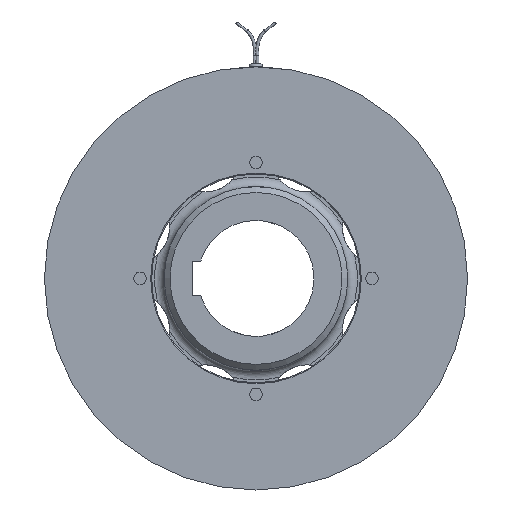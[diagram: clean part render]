
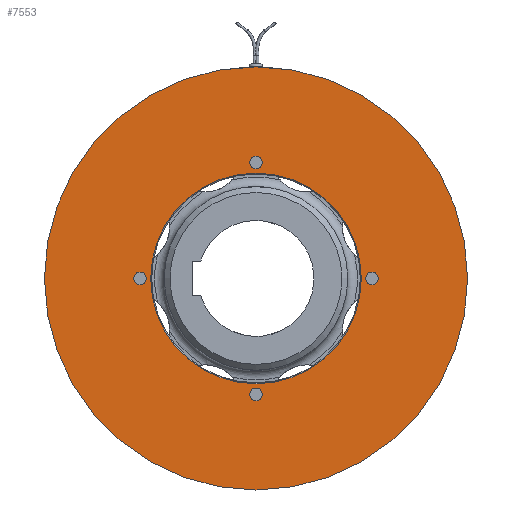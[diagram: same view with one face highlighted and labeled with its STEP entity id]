
A CAD part, left-side view. The second image highlights one B-rep face of the part: STEP entity #7553.
In plain terms, the highlighted planar face has unit normal (-1, 0, 0).
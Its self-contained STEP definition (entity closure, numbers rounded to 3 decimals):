
#149=FACE_BOUND('',#998,.T.);
#150=FACE_BOUND('',#999,.T.);
#151=FACE_BOUND('',#1000,.T.);
#152=FACE_BOUND('',#1001,.T.);
#153=FACE_BOUND('',#1002,.T.);
#271=PLANE('',#8570);
#571=FACE_OUTER_BOUND('',#997,.T.);
#997=EDGE_LOOP('',(#6177,#6178));
#998=EDGE_LOOP('',(#6179,#6180));
#999=EDGE_LOOP('',(#6181,#6182));
#1000=EDGE_LOOP('',(#6183,#6184));
#1001=EDGE_LOOP('',(#6185,#6186));
#1002=EDGE_LOOP('',(#6187));
#1188=CIRCLE('',#7703,109.5);
#1189=CIRCLE('',#7704,109.5);
#1799=CIRCLE('',#8571,3.25);
#1800=CIRCLE('',#8572,3.25);
#1801=CIRCLE('',#8573,3.25);
#1802=CIRCLE('',#8574,3.25);
#1803=CIRCLE('',#8575,3.25);
#1804=CIRCLE('',#8576,3.25);
#1805=CIRCLE('',#8577,3.25);
#1806=CIRCLE('',#8578,3.25);
#1807=CIRCLE('',#8579,54.5);
#2578=VERTEX_POINT('',#11792);
#2579=VERTEX_POINT('',#11793);
#3149=VERTEX_POINT('',#13990);
#3150=VERTEX_POINT('',#13991);
#3151=VERTEX_POINT('',#13994);
#3152=VERTEX_POINT('',#13995);
#3153=VERTEX_POINT('',#13998);
#3154=VERTEX_POINT('',#13999);
#3155=VERTEX_POINT('',#14002);
#3156=VERTEX_POINT('',#14003);
#3157=VERTEX_POINT('',#14006);
#3352=EDGE_CURVE('',#2578,#2579,#1188,.T.);
#3353=EDGE_CURVE('',#2579,#2578,#1189,.T.);
#4223=EDGE_CURVE('',#3149,#3150,#1799,.T.);
#4224=EDGE_CURVE('',#3150,#3149,#1800,.T.);
#4225=EDGE_CURVE('',#3151,#3152,#1801,.T.);
#4226=EDGE_CURVE('',#3152,#3151,#1802,.T.);
#4227=EDGE_CURVE('',#3153,#3154,#1803,.T.);
#4228=EDGE_CURVE('',#3154,#3153,#1804,.T.);
#4229=EDGE_CURVE('',#3155,#3156,#1805,.T.);
#4230=EDGE_CURVE('',#3156,#3155,#1806,.T.);
#4231=EDGE_CURVE('',#3157,#3157,#1807,.T.);
#6177=ORIENTED_EDGE('',*,*,#3352,.T.);
#6178=ORIENTED_EDGE('',*,*,#3353,.T.);
#6179=ORIENTED_EDGE('',*,*,#4223,.T.);
#6180=ORIENTED_EDGE('',*,*,#4224,.T.);
#6181=ORIENTED_EDGE('',*,*,#4225,.T.);
#6182=ORIENTED_EDGE('',*,*,#4226,.T.);
#6183=ORIENTED_EDGE('',*,*,#4227,.T.);
#6184=ORIENTED_EDGE('',*,*,#4228,.T.);
#6185=ORIENTED_EDGE('',*,*,#4229,.T.);
#6186=ORIENTED_EDGE('',*,*,#4230,.T.);
#6187=ORIENTED_EDGE('',*,*,#4231,.F.);
#7553=ADVANCED_FACE('',(#571,#149,#150,#151,#152,#153),#271,.T.);
#7703=AXIS2_PLACEMENT_3D('',#11794,#8899,#8900);
#7704=AXIS2_PLACEMENT_3D('',#11795,#8901,#8902);
#8570=AXIS2_PLACEMENT_3D('',#13989,#10841,#10842);
#8571=AXIS2_PLACEMENT_3D('',#13992,#10843,#10844);
#8572=AXIS2_PLACEMENT_3D('',#13993,#10845,#10846);
#8573=AXIS2_PLACEMENT_3D('',#13996,#10847,#10848);
#8574=AXIS2_PLACEMENT_3D('',#13997,#10849,#10850);
#8575=AXIS2_PLACEMENT_3D('',#14000,#10851,#10852);
#8576=AXIS2_PLACEMENT_3D('',#14001,#10853,#10854);
#8577=AXIS2_PLACEMENT_3D('',#14004,#10855,#10856);
#8578=AXIS2_PLACEMENT_3D('',#14005,#10857,#10858);
#8579=AXIS2_PLACEMENT_3D('',#14007,#10859,#10860);
#8899=DIRECTION('center_axis',(-1.,0.,0.));
#8900=DIRECTION('ref_axis',(0.,1.,0.));
#8901=DIRECTION('center_axis',(-1.,0.,0.));
#8902=DIRECTION('ref_axis',(0.,1.,0.));
#10841=DIRECTION('center_axis',(-1.,0.,0.));
#10842=DIRECTION('ref_axis',(0.,0.,
1.));
#10843=DIRECTION('center_axis',(1.,0.,0.));
#10844=DIRECTION('ref_axis',(0.,0.,
1.));
#10845=DIRECTION('center_axis',(1.,0.,0.));
#10846=DIRECTION('ref_axis',(0.,0.,
1.));
#10847=DIRECTION('center_axis',(1.,0.,0.));
#10848=DIRECTION('ref_axis',(0.,0.,
1.));
#10849=DIRECTION('center_axis',(1.,0.,0.));
#10850=DIRECTION('ref_axis',(0.,0.,
1.));
#10851=DIRECTION('center_axis',(1.,0.,0.));
#10852=DIRECTION('ref_axis',(0.,0.,
1.));
#10853=DIRECTION('center_axis',(1.,0.,0.));
#10854=DIRECTION('ref_axis',(0.,0.,
1.));
#10855=DIRECTION('center_axis',(1.,0.,0.));
#10856=DIRECTION('ref_axis',(0.,0.,
1.));
#10857=DIRECTION('center_axis',(1.,0.,0.));
#10858=DIRECTION('ref_axis',(0.,0.,
1.));
#10859=DIRECTION('center_axis',(-1.,0.,0.));
#10860=DIRECTION('ref_axis',(0.,-1.,0.));
#11792=CARTESIAN_POINT('',(-18.,109.5,0.));
#11793=CARTESIAN_POINT('',(-18.,-109.5,0.));
#11794=CARTESIAN_POINT('Origin',(-18.,0.,0.));
#11795=CARTESIAN_POINT('Origin',(-18.,0.,0.));
#13989=CARTESIAN_POINT('Origin',(-18.,81.75,0.));
#13990=CARTESIAN_POINT('',(-18.,0.,-56.75));
#13991=CARTESIAN_POINT('',(-18.,0.,-63.25));
#13992=CARTESIAN_POINT('Origin',(-18.,0.,-60.));
#13993=CARTESIAN_POINT('Origin',(-18.,0.,-60.));
#13994=CARTESIAN_POINT('',(-18.,0.,63.25));
#13995=CARTESIAN_POINT('',(-18.,0.,56.75));
#13996=CARTESIAN_POINT('Origin',(-18.,0.,60.));
#13997=CARTESIAN_POINT('Origin',(-18.,0.,60.));
#13998=CARTESIAN_POINT('',(-18.,60.,3.25));
#13999=CARTESIAN_POINT('',(-18.,60.,-3.25));
#14000=CARTESIAN_POINT('Origin',(-18.,60.,0.));
#14001=CARTESIAN_POINT('Origin',(-18.,60.,0.));
#14002=CARTESIAN_POINT('',(-18.,-60.,3.25));
#14003=CARTESIAN_POINT('',(-18.,-60.,-3.25));
#14004=CARTESIAN_POINT('Origin',(-18.,-60.,0.));
#14005=CARTESIAN_POINT('Origin',(-18.,-60.,0.));
#14006=CARTESIAN_POINT('',(-18.,54.5,0.));
#14007=CARTESIAN_POINT('Origin',(-18.,0.,0.));
